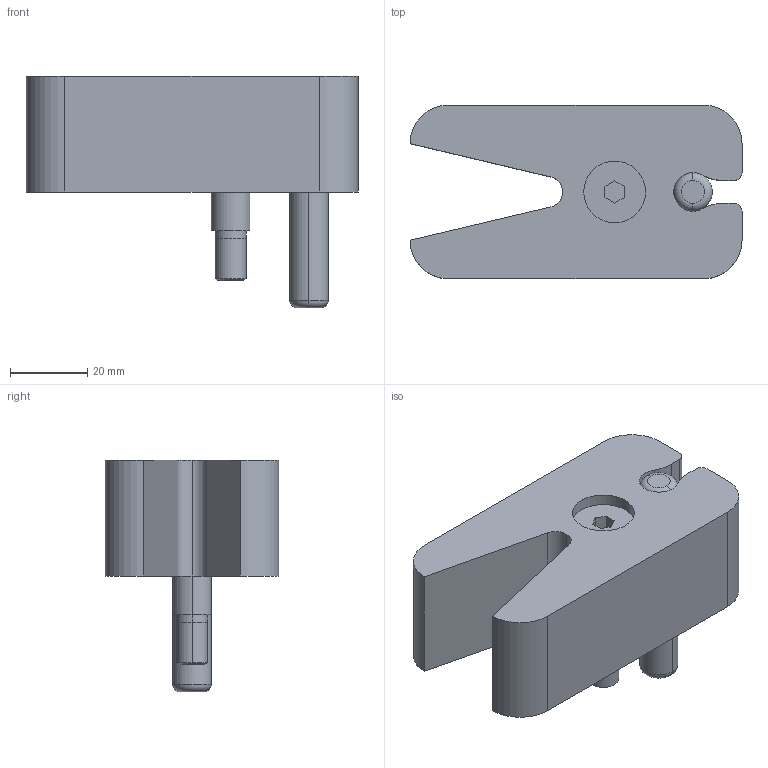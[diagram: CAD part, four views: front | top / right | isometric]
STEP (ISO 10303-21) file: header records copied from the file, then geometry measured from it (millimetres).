
FILE_DESCRIPTION (( 'STEP AP214' ), '1' );
FILE_NAME ('MRT30M.STEP', '2022-01-31T13:19:52', ( '' ), ( '' ), 'SwSTEP 2.0', 'SolidWorks 2018', '' );
FILE_SCHEMA (( 'AUTOMOTIVE_DESIGN' ));
Length unit declared in the file: millimetre
Products named in the file (4): MRT30M; PAS-10x60; BruyRubio_TPM__8_x_30
Assembly tree (3 placements, depth 2):
  MRT30M
    MRT30M
    BruyRubio_TPM__8_x_30
    PAS-10x60
Bounding box: 86 x 45 x 60 mm (x, y, z)
Volume: 96540.3 mm3; surface area: 21794.3 mm2
Topology: 4 solids, 4 shells, 61 faces, 139 edges, 90 vertices
Faces by surface type: cylinder 29, plane 26, torus 4, cone 2
Entity records: 1906 total; most frequent: DIRECTION 339, CARTESIAN_POINT 296, ORIENTED_EDGE 278, EDGE_CURVE 139, AXIS2_PLACEMENT_3D 133, VERTEX_POINT 90, VECTOR 73, LINE 73
